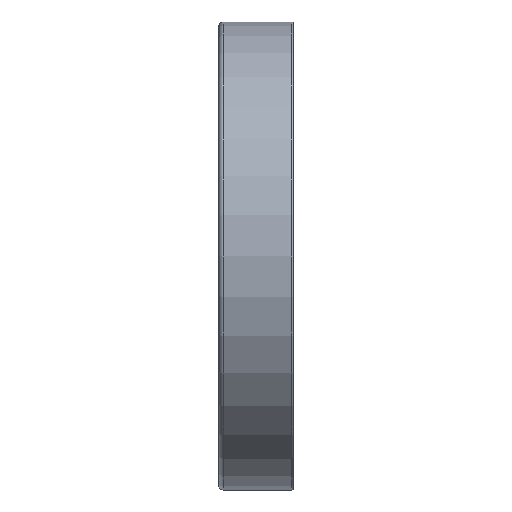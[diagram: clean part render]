
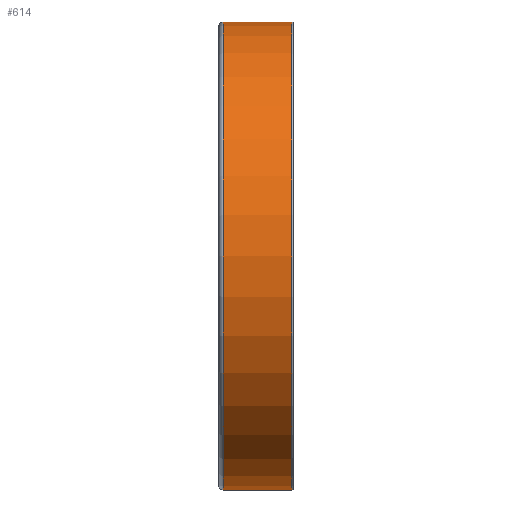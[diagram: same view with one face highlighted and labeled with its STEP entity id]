
A CAD part, front view. The second image highlights one B-rep face of the part: STEP entity #614.
In plain terms, the highlighted cylindrical face has radius 75 mm (diameter 150 mm), a full revolution.
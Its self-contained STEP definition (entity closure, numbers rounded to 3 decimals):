
#179=CYLINDRICAL_SURFACE('',#974,75.);
#295=EDGE_LOOP('',(#423));
#296=EDGE_LOOP('',(#424));
#423=ORIENTED_EDGE('',*,*,#495,.F.);
#424=ORIENTED_EDGE('',*,*,#493,.T.);
#493=EDGE_CURVE('',#893,#893,#513,.T.);
#495=EDGE_CURVE('',#895,#895,#515,.T.);
#513=CIRCLE('',#970,75.);
#515=CIRCLE('',#973,75.);
#614=ADVANCED_FACE('',(#779,#780),#179,.T.);
#779=FACE_BOUND('',#295,.T.);
#780=FACE_BOUND('',#296,.T.);
#893=VERTEX_POINT('',#2082);
#895=VERTEX_POINT('',#2087);
#970=AXIS2_PLACEMENT_3D('',#2081,#1110,#1111);
#973=AXIS2_PLACEMENT_3D('',#2086,#1116,#1117);
#974=AXIS2_PLACEMENT_3D('',#2088,#1118,#1119);
#1110=DIRECTION('',(1.,0.,0.));
#1111=DIRECTION('',(0.,0.,-1.));
#1116=DIRECTION('',(1.,0.,0.));
#1117=DIRECTION('',(0.,0.,-1.));
#1118=DIRECTION('',(1.,0.,0.));
#1119=DIRECTION('',(0.,0.,-1.));
#2081=CARTESIAN_POINT('',(-10.5,0.,0.));
#2082=CARTESIAN_POINT('',(-10.5,0.,-75.));
#2086=CARTESIAN_POINT('',(11.4,0.,0.));
#2087=CARTESIAN_POINT('',(11.4,0.,-75.));
#2088=CARTESIAN_POINT('',(-10.5,0.,0.));
